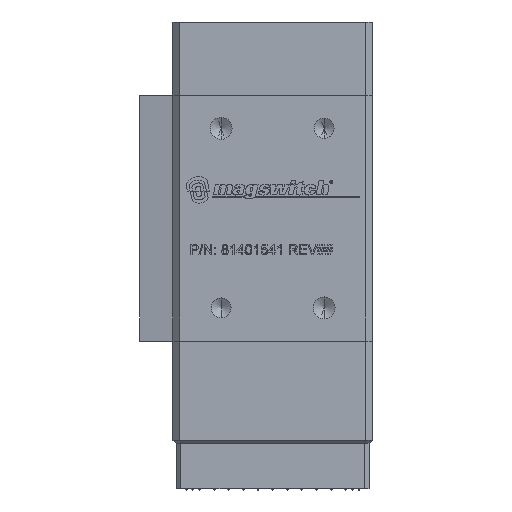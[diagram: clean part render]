
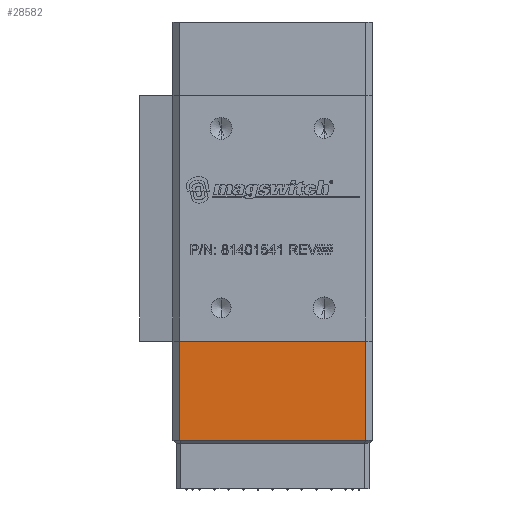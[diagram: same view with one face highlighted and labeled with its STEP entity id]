
A CAD part, front view. The second image highlights one B-rep face of the part: STEP entity #28582.
In plain terms, the highlighted planar face has unit normal (0, -1, 0).
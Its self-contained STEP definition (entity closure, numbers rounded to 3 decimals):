
#1587 = CARTESIAN_POINT ( 'NONE',  ( -46.572, -25.575, 27.567 ) ) ;
#5059 = EDGE_CURVE ( 'NONE', #66617, #11486, #49070, .T. ) ;
#5755 = DIRECTION ( 'NONE',  ( 1., 0., 0. ) ) ;
#8967 = DIRECTION ( 'NONE',  ( 0., 0., 1. ) ) ;
#11276 = CARTESIAN_POINT ( 'NONE',  ( -75.572, -25.575, 27.567 ) ) ;
#11486 = VERTEX_POINT ( 'NONE', #28299 ) ;
#12297 = CARTESIAN_POINT ( 'NONE',  ( -74.572, -25.575, 12.667 ) ) ;
#15115 = EDGE_LOOP ( 'NONE', ( #71451, #17744, #70817, #61155 ) ) ;
#17744 = ORIENTED_EDGE ( 'NONE', *, *, #70806, .T. ) ;
#17963 = CARTESIAN_POINT ( 'NONE',  ( -60.572, -25.575, 26.567 ) ) ;
#21734 = LINE ( 'NONE', #22173, #48887 ) ;
#22173 = CARTESIAN_POINT ( 'NONE',  ( -46.572, -25.575, 12.667 ) ) ;
#24036 = DIRECTION ( 'NONE',  ( 0., 0., -1. ) ) ;
#25602 = EDGE_CURVE ( 'NONE', #11486, #40683, #38247, .T. ) ;
#28299 = CARTESIAN_POINT ( 'NONE',  ( -74.572, -25.575, 27.567 ) ) ;
#28582 = ADVANCED_FACE ( 'NONE', ( #75473 ), #37661, .F. ) ;
#37661 = PLANE ( 'NONE',  #80199 ) ;
#38247 = LINE ( 'NONE', #43746, #69604 ) ;
#40683 = VERTEX_POINT ( 'NONE', #12297 ) ;
#42629 = VECTOR ( 'NONE', #8967, 1000. ) ;
#43569 = DIRECTION ( 'NONE',  ( 0., 1., 0. ) ) ;
#43746 = CARTESIAN_POINT ( 'NONE',  ( -74.572, -25.575, 26.567 ) ) ;
#44665 = EDGE_CURVE ( 'NONE', #76035, #66617, #66496, .T. ) ;
#47769 = DIRECTION ( 'NONE',  ( 1., 0., 0. ) ) ;
#48887 = VECTOR ( 'NONE', #47769, 1000. ) ;
#49070 = LINE ( 'NONE', #11276, #58647 ) ;
#54706 = CARTESIAN_POINT ( 'NONE',  ( -46.572, -25.575, 12.667 ) ) ;
#56190 = DIRECTION ( 'NONE',  ( -1., 0., 0. ) ) ;
#58647 = VECTOR ( 'NONE', #56190, 1000. ) ;
#61155 = ORIENTED_EDGE ( 'NONE', *, *, #5059, .T. ) ;
#66496 = LINE ( 'NONE', #67324, #42629 ) ;
#66617 = VERTEX_POINT ( 'NONE', #1587 ) ;
#67324 = CARTESIAN_POINT ( 'NONE',  ( -46.572, -25.575, 26.567 ) ) ;
#69604 = VECTOR ( 'NONE', #24036, 1000. ) ;
#70806 = EDGE_CURVE ( 'NONE', #40683, #76035, #21734, .T. ) ;
#70817 = ORIENTED_EDGE ( 'NONE', *, *, #44665, .T. ) ;
#71451 = ORIENTED_EDGE ( 'NONE', *, *, #25602, .T. ) ;
#75473 = FACE_OUTER_BOUND ( 'NONE', #15115, .T. ) ;
#76035 = VERTEX_POINT ( 'NONE', #54706 ) ;
#80199 = AXIS2_PLACEMENT_3D ( 'NONE', #17963, #43569, #5755 ) ;
